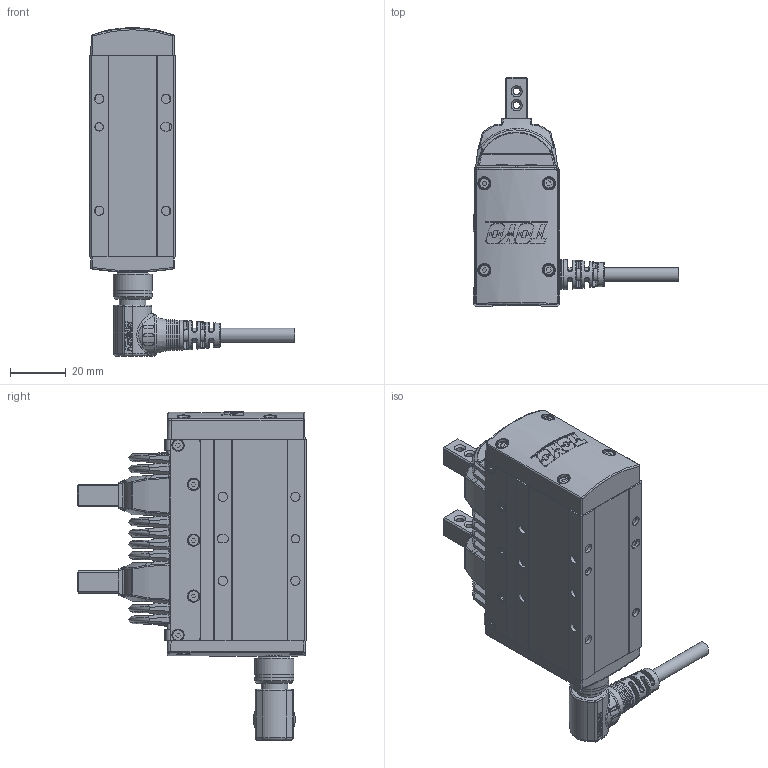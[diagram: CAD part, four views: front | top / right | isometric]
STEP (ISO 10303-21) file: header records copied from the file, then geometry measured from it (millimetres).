
FILE_DESCRIPTION(/* description */ ('STEP AP214'),/* implementation_level */ '2;1');
FILE_NAME(/* name */ 'D:\2025.02.25 帶電匯整給泊舟\3. CHS2系列\4.3D組立\2C-S20\CHS2C-S20-WR.stp',/* time_stamp */ '2025-02-25T18:17:20+08:00',/* author */ ('T10033'),/* organization */ (''),/* preprocessor_version */ 'ST-DEVELOPER v18.1',/* originating_system */ 'Autodesk Inventor 2020',/* authorisation */ '');
FILE_SCHEMA (('CONFIG_CONTROL_DESIGN'));
Products named in the file (8): CHS2-S20加防塵套組合圖-04.2+法蘭; socket head cap screw 4762_din_EN ISO 4762 M2 x 8 - 8S; socket head cap screw_iso_ISO 4762 M2 x 6 - 6S; M12 -14PIN  板端-第一種規格; 22149-000003-02; 12005-000068-02_¹w³]_¾÷¾¹¥
[¤u_; 32534T3_Shrinkwrap_1; M12-14PIN 線端90度接頭-05中繼線
Assembly tree (12 placements, depth 2):
  CHS2-S20加防塵套組合圖-04.2+法蘭
    socket head cap screw 4762_din_EN ISO 4762 M2 x 8 - 8S  x4
    socket head cap screw_iso_ISO 4762 M2 x 6 - 6S  x2
    M12 -14PIN  板端-第一種規格
    22149-000003-02
    12005-000068-02_¹w³]_¾÷¾¹¥
[¤u_  x2
    32534T3_Shrinkwrap_1
    M12-14PIN 線端90度接頭-05中繼線
Bounding box: 73.5 x 82 x 117.52 mm (x, y, z)
Volume: 130039.8 mm3; surface area: 51427.2 mm2
Topology: 26 solids, 39 shells, 3167 faces, 8811 edges, 5858 vertices
Faces by surface type: plane 1411, cylinder 675, cone 514, bspline 457, torus 102, sphere 8
Full cylindrical faces by diameter (mm): 0.6 x14, 0.65 x14, 1 x14, 1.8 x5, 2 x130, 2.2 x10, 2.5 x8, 2.6 x4, 3 x7, 3.3 x12, 3.8 x16, 4 x4, 4.8 x4, 5 x1, 8 x1, 8.9 x1, 9.5 x2, 9.6 x1, 10.5 x2, 10.9 x1, 11 x2, 11.2 x1, 11.25 x1, 12 x1, 13 x1, 13.8 x1, 14 x2, 14.4 x1, 16.482 x1
Entity records: 144848 total; most frequent: CARTESIAN_POINT 72141, ORIENTED_EDGE 15544, DIRECTION 13847, EDGE_CURVE 7790, AXIS2_PLACEMENT_3D 5220, VERTEX_POINT 5172, LINE 3407, VECTOR 3407
